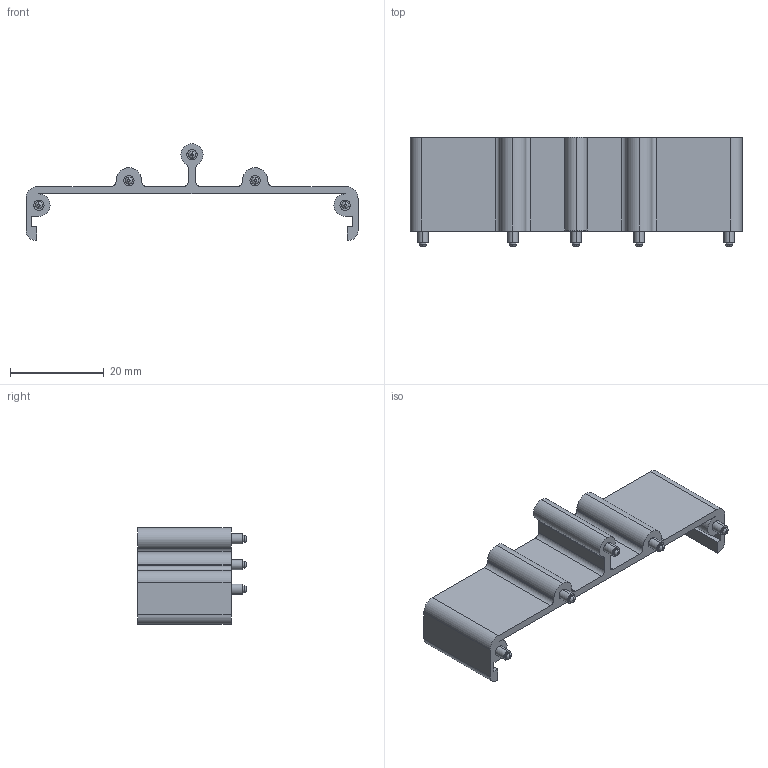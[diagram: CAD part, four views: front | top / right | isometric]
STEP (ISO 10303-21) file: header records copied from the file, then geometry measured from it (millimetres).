
FILE_DESCRIPTION (( 'STEP AP203' ), '1' );
FILE_NAME ('SP7-E20.STEP', '2019-09-12T16:51:44', ( '' ), ( '' ), 'SwSTEP 2.0', 'SolidWorks 2012', '' );
FILE_SCHEMA (( 'CONFIG_CONTROL_DESIGN' ));
Length unit declared in the file: millimetre
Products named in the file (1): SP7-E20
Bounding box: 71 x 23.3 x 20.65 mm (x, y, z)
Volume: 4728.4 mm3; surface area: 5069.7 mm2
Topology: 1 solids, 1 shells, 115 faces, 269 edges, 176 vertices
Faces by surface type: cylinder 60, plane 45, torus 10
Entity records: 3420 total; most frequent: DIRECTION 641, CARTESIAN_POINT 561, ORIENTED_EDGE 538, EDGE_CURVE 269, AXIS2_PLACEMENT_3D 256, VERTEX_POINT 176, CIRCLE 140, EDGE_LOOP 135
